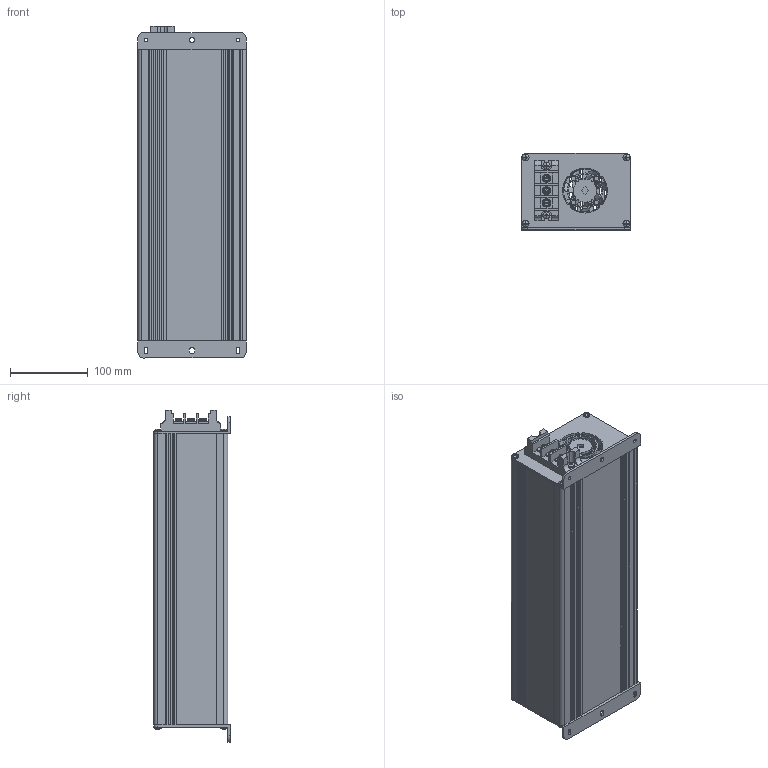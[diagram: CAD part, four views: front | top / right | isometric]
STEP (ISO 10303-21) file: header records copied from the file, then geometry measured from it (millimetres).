
FILE_DESCRIPTION(/* description */ ('','CAx-IF Rec.Pracs.---Representation and Presentation of Product Manufacturing Information (PMI)---4.0---2014-10-13'),/* implementation_level */ '2;1');
FILE_NAME(/* name */ 'H:\04_배터리_전기종\고부하용 배터리 케이스_3D\[NEW] DH 설계자용\DH375.stp',/* time_stamp */ '2022-06-16T14:43:32+09:00',/* author */ ('jjang'),/* organization */ (''),/* preprocessor_version */ 'ST-DEVELOPER v18.1',/* originating_system */ 'Autodesk Inventor 2021',/* authorisation */ '');
FILE_SCHEMA (('AP242_MANAGED_MODEL_BASED_3D_ENGINEERING_MIM_LF { 1 0 10303 442 1 1 4 }'));
Length unit declared in the file: inch
Products named in the file (1): DH375_Shrinkwrap_1
Bounding box: 140 x 98.5 x 427.5 mm (x, y, z)
Volume: 690702 mm3; surface area: 480599.9 mm2
Topology: 1 solids, 1 shells, 1124 faces, 3185 edges, 2078 vertices
Faces by surface type: plane 615, cylinder 362, bspline 92, torus 43, sphere 7, cone 5
Full cylindrical faces by diameter (mm): 0.9 x2, 3.8 x8, 4.3 x4, 4.4 x2, 4.5 x8, 5 x3, 5.5 x6, 6 x3, 6.5 x1, 8.584 x3, 8.6 x3, 8.8 x8, 9.2 x2, 10 x1, 25.4 x1, 55.4 x1
Entity records: 44453 total; most frequent: CARTESIAN_POINT 14525, ORIENTED_EDGE 6360, DIRECTION 5927, EDGE_CURVE 3180, AXIS2_PLACEMENT_3D 2108, VERTEX_POINT 2078, LINE 1711, VECTOR 1711
